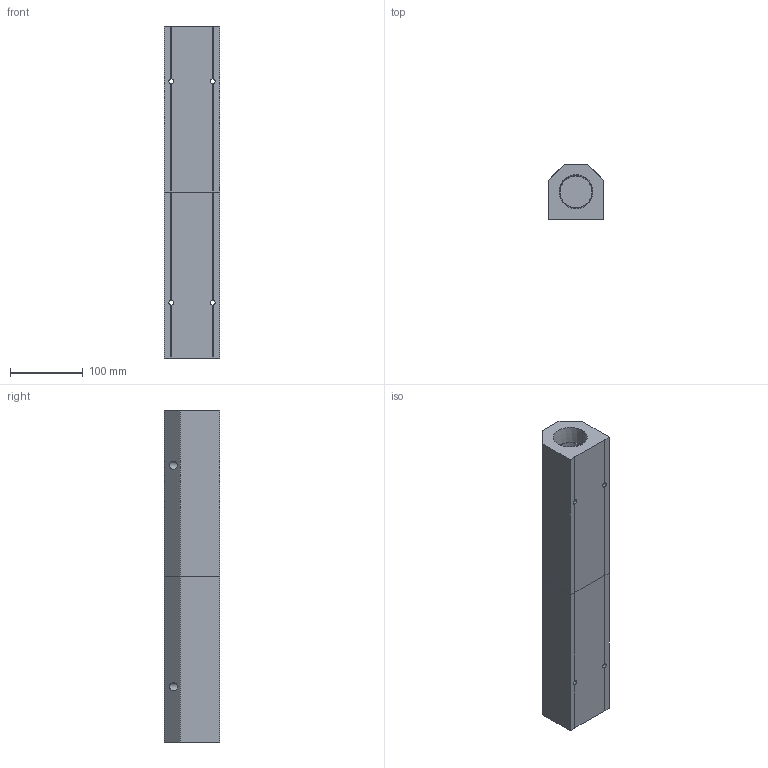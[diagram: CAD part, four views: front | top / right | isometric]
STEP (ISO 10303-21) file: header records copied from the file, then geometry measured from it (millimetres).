
FILE_DESCRIPTION (( 'STEP AP214' ), '1' );
FILE_NAME ('ALM8C-N8N24-457RB.step', '2022-02-07T09:39:53', ( '' ), ( '' ), 'SwSTEP 2.0', 'SolidWorks 2020', '' );
FILE_SCHEMA (( 'AUTOMOTIVE_DESIGN' ));
Length unit declared in the file: millimetre
Products named in the file (1): ALM8C-N8N24-457RB
Bounding box: 76.2 x 76.2 x 457 mm (x, y, z)
Volume: 1665709.5 mm3; surface area: 220697.8 mm2
Topology: 2 solids, 2 shells, 338 faces, 883 edges, 586 vertices
Faces by surface type: plane 224, bspline 74, cone 20, cylinder 20
Entity records: 18660 total; most frequent: CARTESIAN_POINT 7674, ORIENTED_EDGE 1766, DIRECTION 1289, EDGE_CURVE 883, LINE 647, VECTOR 647, VERTEX_POINT 586, EDGE_LOOP 399
